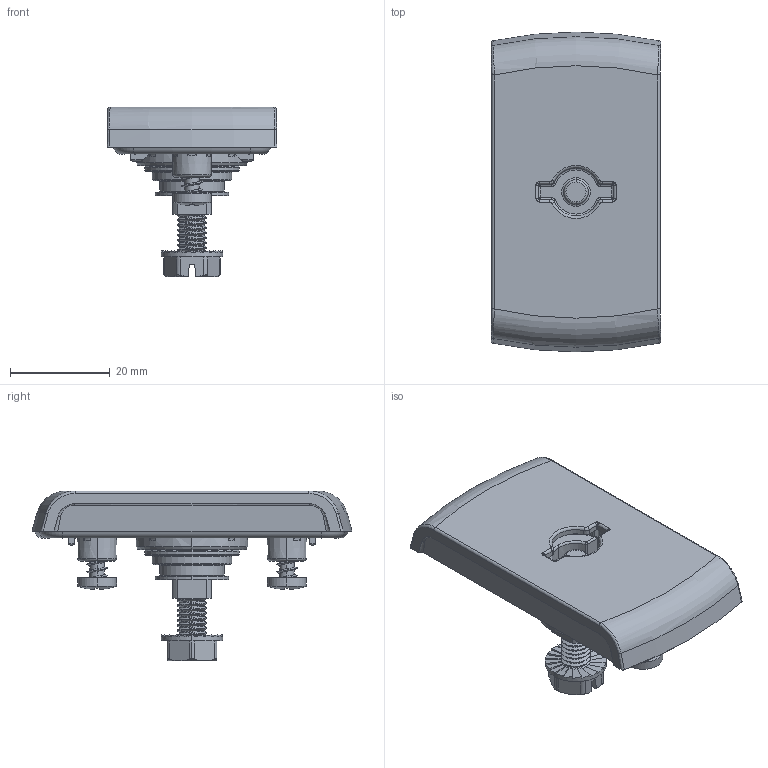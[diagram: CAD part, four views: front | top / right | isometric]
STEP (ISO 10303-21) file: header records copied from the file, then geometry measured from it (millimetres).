
FILE_DESCRIPTION (( 'STEP AP214' ), '1' );
FILE_NAME ('1B.RW125.N.STEP', '2022-02-04T07:31:19', ( '' ), ( '' ), 'SwSTEP 2.0', 'SolidWorks 2021', '' );
FILE_SCHEMA (( 'AUTOMOTIVE_DESIGN' ));
Length unit declared in the file: millimetre
Products named in the file (7): S6PZ_M6x12 S6Pz; 1B.RW125.N; P.014991_00-01; DIN 7981_F.4.1x12; 2.PT.001_A; DIN 3771_16x2; P.014951_00-00
Assembly tree (7 placements, depth 2):
  1B.RW125.N
    P.014991_00-01
    2.PT.001_A
    DIN 3771_16x2
    DIN 7981_F.4.1x12  x2
    P.014951_00-00
    S6PZ_M6x12 S6Pz
Bounding box: 34 x 64 x 34 mm (x, y, z)
Volume: 15211.2 mm3; surface area: 15642.9 mm2
Topology: 8 solids, 8 shells, 1182 faces, 2836 edges, 1690 vertices
Faces by surface type: plane 349, cylinder 249, bspline 221, torus 140, sphere 120, cone 103
Entity records: 46685 total; most frequent: CARTESIAN_POINT 21948, ORIENTED_EDGE 5376, DIRECTION 4742, EDGE_CURVE 2688, AXIS2_PLACEMENT_3D 1892, VERTEX_POINT 1594, EDGE_LOOP 1162, FACE_OUTER_BOUND 1131
